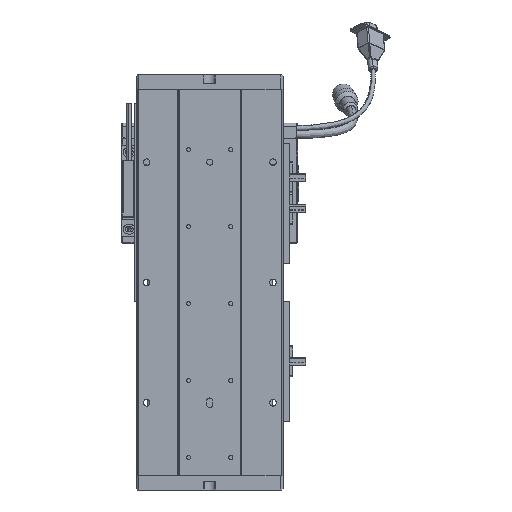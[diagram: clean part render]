
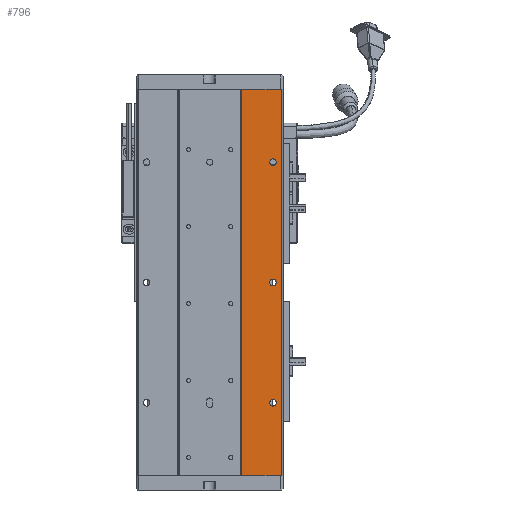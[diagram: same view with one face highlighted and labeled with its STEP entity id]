
A CAD part, front view. The second image highlights one B-rep face of the part: STEP entity #796.
In plain terms, the highlighted planar face has unit normal (0, -1, 0).
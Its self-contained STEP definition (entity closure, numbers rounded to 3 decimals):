
#351 = CARTESIAN_POINT ( 'NONE',  ( 181.625, 76.768, 321. ) ) ;
#796 = ADVANCED_FACE ( 'NONE', ( #1853, #27710, #40998, #5804 ), #21051, .F. ) ;
#1832 = VERTEX_POINT ( 'NONE', #61961 ) ;
#1853 = FACE_BOUND ( 'NONE', #62056, .T. ) ;
#1913 = CARTESIAN_POINT ( 'NONE',  ( 181.625, 76.768, 0. ) ) ;
#2058 = DIRECTION ( 'NONE',  ( -1., 0., 0. ) ) ;
#2546 = DIRECTION ( 'NONE',  ( 0., 0., 1. ) ) ;
#3186 = VERTEX_POINT ( 'NONE', #1913 ) ;
#3423 = DIRECTION ( 'NONE',  ( 0., 0., 1. ) ) ;
#3842 = CARTESIAN_POINT ( 'NONE',  ( 214.532, 76.768, 321. ) ) ;
#4347 = EDGE_CURVE ( 'NONE', #28039, #9595, #61020, .T. ) ;
#5009 = EDGE_CURVE ( 'NONE', #33046, #15078, #46024, .T. ) ;
#5366 = CARTESIAN_POINT ( 'NONE',  ( 207.625, 76.768, 160.5 ) ) ;
#5804 = FACE_OUTER_BOUND ( 'NONE', #18911, .T. ) ;
#7612 = EDGE_CURVE ( 'NONE', #1832, #57343, #59631, .T. ) ;
#7827 = DIRECTION ( 'NONE',  ( 0., 1., 0. ) ) ;
#8027 = DIRECTION ( 'NONE',  ( 0., 1., 0. ) ) ;
#8056 = CARTESIAN_POINT ( 'NONE',  ( 207.625, 76.768, 57.75 ) ) ;
#8221 = VECTOR ( 'NONE', #32167, 1000. ) ;
#8231 = EDGE_LOOP ( 'NONE', ( #29536, #21860 ) ) ;
#9595 = VERTEX_POINT ( 'NONE', #26190 ) ;
#10716 = CARTESIAN_POINT ( 'NONE',  ( 207.625, 76.768, 160.5 ) ) ;
#10939 = ORIENTED_EDGE ( 'NONE', *, *, #44091, .F. ) ;
#11596 = AXIS2_PLACEMENT_3D ( 'NONE', #41704, #37092, #12223 ) ;
#12223 = DIRECTION ( 'NONE',  ( 0., 0., 1. ) ) ;
#12654 = AXIS2_PLACEMENT_3D ( 'NONE', #5366, #29891, #55236 ) ;
#15078 = VERTEX_POINT ( 'NONE', #56108 ) ;
#16300 = CARTESIAN_POINT ( 'NONE',  ( 0., 76.768, 0. ) ) ;
#16437 = CIRCLE ( 'NONE', #12654, 2.75 ) ;
#17842 = AXIS2_PLACEMENT_3D ( 'NONE', #10716, #50729, #50513 ) ;
#18911 = EDGE_LOOP ( 'NONE', ( #33170, #10939, #62125, #41591 ) ) ;
#19791 = EDGE_CURVE ( 'NONE', #23048, #46937, #40036, .T. ) ;
#21051 = PLANE ( 'NONE',  #56251 ) ;
#21860 = ORIENTED_EDGE ( 'NONE', *, *, #54268, .T. ) ;
#22668 = CARTESIAN_POINT ( 'NONE',  ( 207.625, 76.768, 260.5 ) ) ;
#23048 = VERTEX_POINT ( 'NONE', #63159 ) ;
#23078 = EDGE_LOOP ( 'NONE', ( #54470, #32793 ) ) ;
#23746 = CARTESIAN_POINT ( 'NONE',  ( 84.971, 76.768, 321. ) ) ;
#24659 = VERTEX_POINT ( 'NONE', #26684 ) ;
#26190 = CARTESIAN_POINT ( 'NONE',  ( 207.625, 76.768, 157.75 ) ) ;
#26684 = CARTESIAN_POINT ( 'NONE',  ( 214.532, 76.768, 0. ) ) ;
#27710 = FACE_BOUND ( 'NONE', #8231, .T. ) ;
#27892 = AXIS2_PLACEMENT_3D ( 'NONE', #22668, #48190, #2546 ) ;
#28010 = CARTESIAN_POINT ( 'NONE',  ( 181.625, 76.768, 321. ) ) ;
#28039 = VERTEX_POINT ( 'NONE', #34065 ) ;
#28320 = VECTOR ( 'NONE', #58923, 1000. ) ;
#29536 = ORIENTED_EDGE ( 'NONE', *, *, #7612, .T. ) ;
#29891 = DIRECTION ( 'NONE',  ( 0., 1., 0. ) ) ;
#32156 = DIRECTION ( 'NONE',  ( 0., 0., 1. ) ) ;
#32167 = DIRECTION ( 'NONE',  ( 0., 0., -1. ) ) ;
#32368 = DIRECTION ( 'NONE',  ( 0., 1., 0. ) ) ;
#32793 = ORIENTED_EDGE ( 'NONE', *, *, #49277, .T. ) ;
#33046 = VERTEX_POINT ( 'NONE', #43601 ) ;
#33170 = ORIENTED_EDGE ( 'NONE', *, *, #34395, .T. ) ;
#34065 = CARTESIAN_POINT ( 'NONE',  ( 207.625, 76.768, 163.25 ) ) ;
#34395 = EDGE_CURVE ( 'NONE', #46937, #3186, #51258, .T. ) ;
#36603 = EDGE_CURVE ( 'NONE', #23048, #24659, #63644, .T. ) ;
#37092 = DIRECTION ( 'NONE',  ( 0., 1., 0. ) ) ;
#40036 = LINE ( 'NONE', #23746, #28320 ) ;
#40181 = VECTOR ( 'NONE', #49224, 1000. ) ;
#40261 = CIRCLE ( 'NONE', #63094, 2.75 ) ;
#40998 = FACE_BOUND ( 'NONE', #23078, .T. ) ;
#41591 = ORIENTED_EDGE ( 'NONE', *, *, #19791, .T. ) ;
#41704 = CARTESIAN_POINT ( 'NONE',  ( 207.625, 76.768, 60.5 ) ) ;
#43128 = AXIS2_PLACEMENT_3D ( 'NONE', #57667, #7827, #3423 ) ;
#43601 = CARTESIAN_POINT ( 'NONE',  ( 207.625, 76.768, 257.75 ) ) ;
#43720 = LINE ( 'NONE', #16300, #46051 ) ;
#44091 = EDGE_CURVE ( 'NONE', #24659, #3186, #43720, .T. ) ;
#46024 = CIRCLE ( 'NONE', #27892, 2.75 ) ;
#46051 = VECTOR ( 'NONE', #2058, 1000. ) ;
#46937 = VERTEX_POINT ( 'NONE', #351 ) ;
#48190 = DIRECTION ( 'NONE',  ( 0., 1., 0. ) ) ;
#49224 = DIRECTION ( 'NONE',  ( 0., 0., -1. ) ) ;
#49277 = EDGE_CURVE ( 'NONE', #9595, #28039, #16437, .T. ) ;
#50513 = DIRECTION ( 'NONE',  ( 0., 0., 1. ) ) ;
#50729 = DIRECTION ( 'NONE',  ( 0., 1., 0. ) ) ;
#51258 = LINE ( 'NONE', #28010, #8221 ) ;
#52161 = ORIENTED_EDGE ( 'NONE', *, *, #5009, .T. ) ;
#53708 = DIRECTION ( 'NONE',  ( 0., 0., 1. ) ) ;
#54268 = EDGE_CURVE ( 'NONE', #57343, #1832, #63784, .T. ) ;
#54428 = EDGE_CURVE ( 'NONE', #15078, #33046, #40261, .T. ) ;
#54470 = ORIENTED_EDGE ( 'NONE', *, *, #4347, .T. ) ;
#55236 = DIRECTION ( 'NONE',  ( 0., 0., 1. ) ) ;
#55997 = CARTESIAN_POINT ( 'NONE',  ( 84.971, 76.768, 0. ) ) ;
#56108 = CARTESIAN_POINT ( 'NONE',  ( 207.625, 76.768, 263.25 ) ) ;
#56251 = AXIS2_PLACEMENT_3D ( 'NONE', #55997, #32368, #32156 ) ;
#57343 = VERTEX_POINT ( 'NONE', #8056 ) ;
#57667 = CARTESIAN_POINT ( 'NONE',  ( 207.625, 76.768, 60.5 ) ) ;
#58721 = CARTESIAN_POINT ( 'NONE',  ( 207.625, 76.768, 260.5 ) ) ;
#58923 = DIRECTION ( 'NONE',  ( -1., 0., 0. ) ) ;
#59631 = CIRCLE ( 'NONE', #43128, 2.75 ) ;
#61020 = CIRCLE ( 'NONE', #17842, 2.75 ) ;
#61961 = CARTESIAN_POINT ( 'NONE',  ( 207.625, 76.768, 63.25 ) ) ;
#62056 = EDGE_LOOP ( 'NONE', ( #64831, #52161 ) ) ;
#62125 = ORIENTED_EDGE ( 'NONE', *, *, #36603, .F. ) ;
#63094 = AXIS2_PLACEMENT_3D ( 'NONE', #58721, #8027, #53708 ) ;
#63159 = CARTESIAN_POINT ( 'NONE',  ( 214.532, 76.768, 321. ) ) ;
#63644 = LINE ( 'NONE', #3842, #40181 ) ;
#63784 = CIRCLE ( 'NONE', #11596, 2.75 ) ;
#64831 = ORIENTED_EDGE ( 'NONE', *, *, #54428, .T. ) ;
